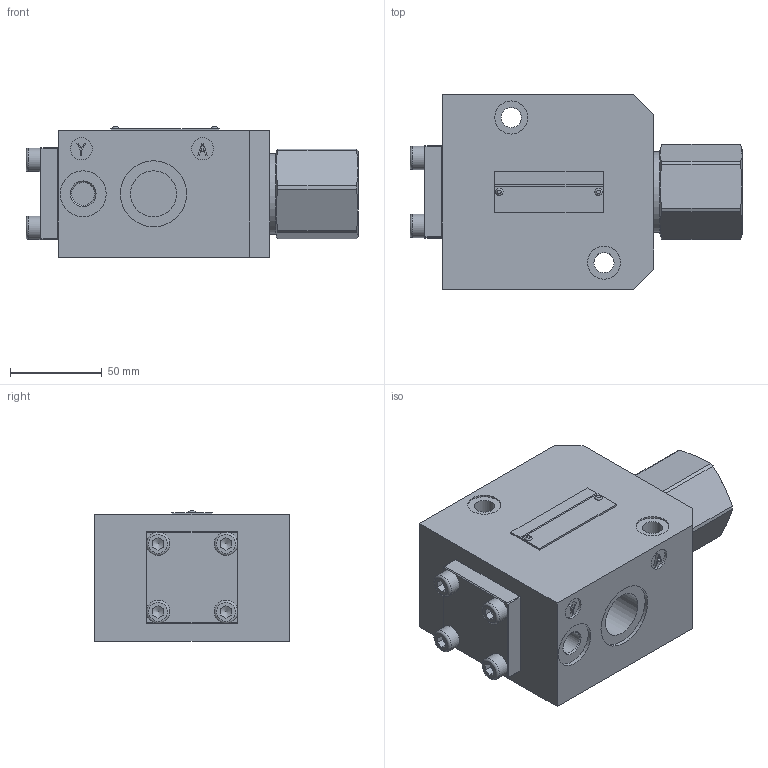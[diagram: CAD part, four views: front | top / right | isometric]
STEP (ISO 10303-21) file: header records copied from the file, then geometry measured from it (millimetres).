
FILE_DESCRIPTION(/* description */ (''),/* implementation_level */ '2;1');
FILE_NAME(/* name */ 'SL15G-3(4)-4XJ液控单向阀（管式）.prt.stp',/* time_stamp */ '2022-03-30T19:18:29+08:00',/* author */ (''),/* organization */ (''),/* preprocessor_version */ 'ST-DEVELOPER v16.7',/* originating_system */ 'SIEMENS PLM Software NX 12.0',/* authorisation */ '');
FILE_SCHEMA (('AUTOMOTIVE_DESIGN { 1 0 10303 214 3 1 1 1 }'));
Products named in the file (1): SL15G-3(4)-4XJ液控单向阀（管式）
Bounding box: 180.74 x 106 x 71 mm (x, y, z)
Volume: 955211.5 mm3; surface area: 99444.7 mm2
Topology: 10 solids, 10 shells, 381 faces, 901 edges, 568 vertices
Faces by surface type: plane 184, cylinder 108, cone 35, extrusion 26, bspline 24, torus 4
Full cylindrical faces by diameter (mm): 1.8 x6, 3.4 x1, 6.7 x52, 9 x4, 11 x2, 12 x4, 12.5 x2, 12.73 x4, 18 x2, 25 x4, 36 x3, 44 x1
Entity records: 45906 total; most frequent: CARTESIAN_POINT 38466, ORIENTED_EDGE 1308, DIRECTION 1243, EDGE_CURVE 654, VERTEX_POINT 455, EDGE_LOOP 443, AXIS2_PLACEMENT_3D 438, VECTOR 367
